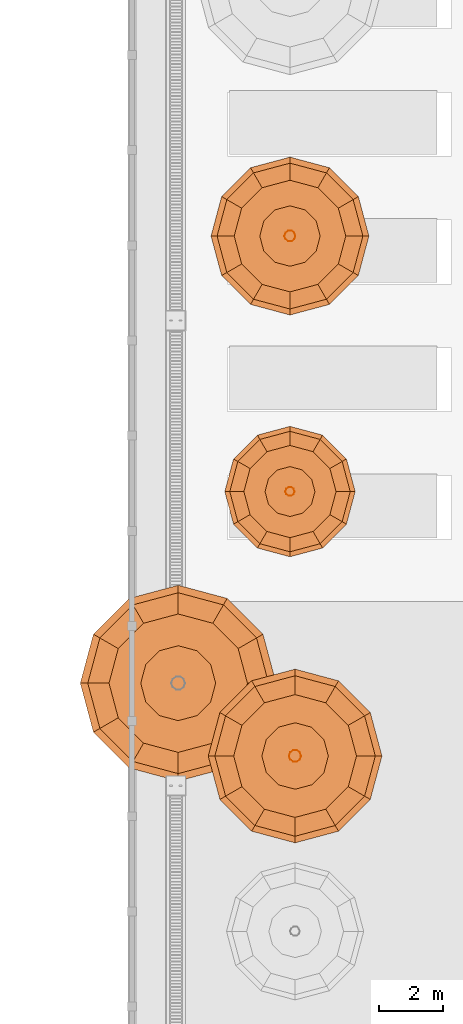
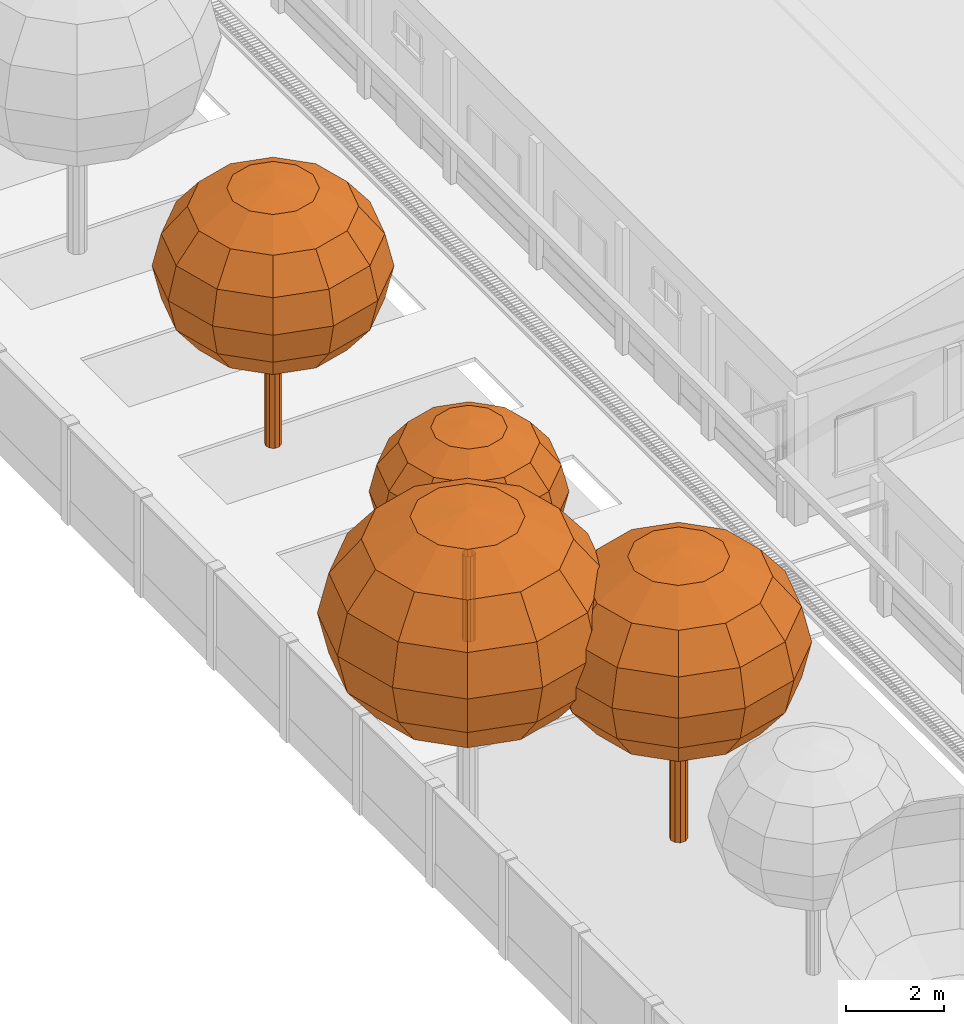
# One storey, part 151 of 166: 7 proxies.
"""IFC2X3 building model written with IfcOpenShell, lengths in metres."""

from ifc_helpers import new_model, si_unit, origin, origin_with_axes, place, context, subcontext, project, spatial, faceted_brep, element, save


model = new_model("IFC2X3")

# Units and contexts
model_context = context("Model", 3, precision=1e-05, world=origin_with_axes())
body_context = subcontext(model_context, "Body", "Model", "MODEL_VIEW")
ifc_project = project(units=[si_unit("LENGTHUNIT", "METRE"), si_unit("AREAUNIT", "SQUARE_METRE"), si_unit("VOLUMEUNIT", "CUBIC_METRE"), si_unit("PLANEANGLEUNIT", "RADIAN")], contexts=[model_context])

# Site, building, storey
site_placement = place(None, origin_with_axes())
site = spatial("IfcSite", under=ifc_project, at=site_placement, Name="Predio Los Mangos - Morales, San Martín", CompositionType="ELEMENT")
building_placement = place(site_placement, origin())
building = spatial("IfcBuilding", under=site, at=building_placement, Name="Hogar de Refugio Temporal", CompositionType="ELEMENT")
storey_placement = place(building_placement, origin())
storey = spatial("IfcBuildingStorey", under=building, at=storey_placement, Name="NIVEL 1 (NPT +0.00)", CompositionType="ELEMENT", Elevation=0.0)

# Proxies
proxy_1_placement = place(storey_placement, origin())
element("IfcBuildingElementProxy", 1, at=proxy_1_placement, inside=storey, Name="arbol_tronco", ObjectType="Árbol", context=body_context, shape_type="Brep", body=[
    faceted_brep([(6.3492, 43.72, 0.0), (6.3131, 43.8312, 0.0), (6.3131, 43.8312, 2.8377), (6.2185, 43.8999, 0.0), (6.2185, 43.8999, 2.8377), (6.1015, 43.8999, 0.0), (6.1015, 43.8999, 2.8377), (6.0069, 43.8312, 0.0), (6.0069, 43.8312, 2.8377), (5.9708, 43.72, 0.0), (5.9708, 43.72, 2.8377), (6.0069, 43.6088, 0.0), (6.0069, 43.6088, 2.8377), (6.1015, 43.5401, 0.0), (6.1015, 43.5401, 2.8377), (6.2185, 43.5401, 0.0), (6.2185, 43.5401, 2.8377), (6.3131, 43.6088, 0.0), (6.3131, 43.6088, 2.8377), (6.3492, 43.72, 2.8377)], [[[0, 1, 2]], [[1, 3, 4]], [[3, 5, 6]], [[5, 7, 8]], [[7, 9, 10]], [[9, 11, 12]], [[11, 13, 14]], [[13, 15, 16]], [[15, 17, 18]], [[17, 0, 19]], [[0, 2, 19]], [[1, 4, 2]], [[3, 6, 4]], [[5, 8, 6]], [[7, 10, 8]], [[9, 12, 10]], [[11, 14, 12]], [[13, 16, 14]], [[15, 18, 16]], [[17, 19, 18]]]),
])
proxy_2_placement = place(storey_placement, origin())
element("IfcBuildingElementProxy", 2, at=proxy_2_placement, inside=storey, Name="arbol_copa", ObjectType="Árbol", context=body_context, shape_type="Brep", body=[
    faceted_brep([(6.16, 43.72, 7.1889), (6.16, 43.72, 7.1889), (7.0613, 44.2404, 7.0129), (7.2007, 43.72, 7.0129), (6.16, 43.72, 7.1889), (6.6804, 44.6213, 7.0129), (6.16, 43.72, 7.1889), (6.16, 44.7607, 7.0129), (6.16, 43.72, 7.1889), (5.6396, 44.6213, 7.0129), (6.16, 43.72, 7.1889), (5.2587, 44.2404, 7.0129), (6.16, 43.72, 7.1889), (5.1193, 43.72, 7.0129), (6.16, 43.72, 7.1889), (5.2587, 43.1997, 7.0129), (6.16, 43.72, 7.1889), (5.6396, 42.8187, 7.0129), (6.16, 43.72, 7.1889), (6.16, 42.6793, 7.0129), (6.16, 43.72, 7.1889), (6.6804, 42.8187, 7.0129), (6.16, 43.72, 7.1889), (7.0613, 43.1997, 7.0129), (7.8253, 44.6815, 6.5119), (8.083, 43.72, 6.5119), (7.1215, 45.3853, 6.5119), (6.16, 45.643, 6.5119), (5.1985, 45.3853, 6.5119), (4.4947, 44.6815, 6.5119), (4.237, 43.72, 6.5119), (4.4947, 42.7585, 6.5119), (5.1985, 42.0547, 6.5119), (6.16, 41.797, 6.5119), (7.1215, 42.0547, 6.5119), (7.8253, 42.7585, 6.5119), (8.3359, 44.9762, 5.7619), (8.6725, 43.72, 5.7619), (7.4162, 45.8959, 5.7619), (6.16, 46.2325, 5.7619), (4.9038, 45.8959, 5.7619), (3.9841, 44.9762, 5.7619), (3.6475, 43.72, 5.7619), (3.9841, 42.4638, 5.7619), (4.9038, 41.5441, 5.7619), (6.16, 41.2075, 5.7619), (7.4162, 41.5441, 5.7619), (8.3359, 42.4638, 5.7619), (8.5151, 45.0797, 4.8773), (8.8795, 43.72, 4.8773), (7.5197, 46.0751, 4.8773), (6.16, 46.4395, 4.8773), (4.8003, 46.0751, 4.8773), (3.8049, 45.0797, 4.8773), (3.4405, 43.72, 4.8773), (3.8049, 42.3603, 4.8773), (4.8003, 41.3649, 4.8773), (6.16, 41.0005, 4.8773), (7.5197, 41.3649, 4.8773), (8.5151, 42.3603, 4.8773), (8.3359, 44.9762, 3.9927), (8.6725, 43.72, 3.9927), (7.4162, 45.8959, 3.9927), (6.16, 46.2325, 3.9927), (4.9038, 45.8959, 3.9927), (3.9841, 44.9762, 3.9927), (3.6475, 43.72, 3.9927), (3.9841, 42.4638, 3.9927), (4.9038, 41.5441, 3.9927), (6.16, 41.2075, 3.9927), (7.4162, 41.5441, 3.9927), (8.3359, 42.4638, 3.9927), (7.8253, 44.6815, 3.2428), (8.083, 43.72, 3.2428), (7.1215, 45.3853, 3.2428), (6.16, 45.643, 3.2428), (5.1985, 45.3853, 3.2428), (4.4947, 44.6815, 3.2428), (4.237, 43.72, 3.2428), (4.4947, 42.7585, 3.2428), (5.1985, 42.0547, 3.2428), (6.16, 41.797, 3.2428), (7.1215, 42.0547, 3.2428), (7.8253, 42.7585, 3.2428), (7.0613, 44.2404, 2.7417), (7.2007, 43.72, 2.7417), (6.6804, 44.6213, 2.7417), (6.16, 44.7607, 2.7417), (5.6396, 44.6213, 2.7417), (5.2587, 44.2404, 2.7417), (5.1193, 43.72, 2.7417), (5.2587, 43.1997, 2.7417), (5.6396, 42.8187, 2.7417), (6.16, 42.6793, 2.7417), (6.6804, 42.8187, 2.7417), (7.0613, 43.1997, 2.7417), (6.16, 43.72, 2.5658), (6.16, 43.72, 2.5658), (6.16, 43.72, 2.5658), (6.16, 43.72, 2.5658), (6.16, 43.72, 2.5658), (6.16, 43.72, 2.5658), (6.16, 43.72, 2.5658), (6.16, 43.72, 2.5658), (6.16, 43.72, 2.5658), (6.16, 43.72, 2.5658), (6.16, 43.72, 2.5658), (6.16, 43.72, 2.5658)], [[[0, 1, 2]], [[0, 2, 3]], [[1, 4, 5]], [[1, 5, 2]], [[4, 6, 7]], [[4, 7, 5]], [[6, 8, 9]], [[6, 9, 7]], [[8, 10, 11]], [[8, 11, 9]], [[10, 12, 13]], [[10, 13, 11]], [[12, 14, 15]], [[12, 15, 13]], [[14, 16, 17]], [[14, 17, 15]], [[16, 18, 19]], [[16, 19, 17]], [[18, 20, 21]], [[18, 21, 19]], [[20, 22, 23]], [[20, 23, 21]], [[22, 0, 3]], [[22, 3, 23]], [[3, 2, 24]], [[3, 24, 25]], [[2, 5, 26]], [[2, 26, 24]], [[5, 7, 27]], [[5, 27, 26]], [[7, 9, 28]], [[7, 28, 27]], [[9, 11, 29]], [[9, 29, 28]], [[11, 13, 30]], [[11, 30, 29]], [[13, 15, 31]], [[13, 31, 30]], [[15, 17, 32]], [[15, 32, 31]], [[17, 19, 33]], [[17, 33, 32]], [[19, 21, 34]], [[19, 34, 33]], [[21, 23, 35]], [[21, 35, 34]], [[23, 3, 25]], [[23, 25, 35]], [[25, 24, 36]], [[25, 36, 37]], [[24, 26, 38]], [[24, 38, 36]], [[26, 27, 39]], [[26, 39, 38]], [[27, 28, 40]], [[27, 40, 39]], [[28, 29, 41]], [[28, 41, 40]], [[29, 30, 42]], [[29, 42, 41]], [[30, 31, 43]], [[30, 43, 42]], [[31, 32, 44]], [[31, 44, 43]], [[32, 33, 45]], [[32, 45, 44]], [[33, 34, 46]], [[33, 46, 45]], [[34, 35, 47]], [[34, 47, 46]], [[35, 25, 37]], [[35, 37, 47]], [[37, 36, 48]], [[37, 48, 49]], [[36, 38, 50]], [[36, 50, 48]], [[38, 39, 51]], [[38, 51, 50]], [[39, 40, 52]], [[39, 52, 51]], [[40, 41, 53]], [[40, 53, 52]], [[41, 42, 54]], [[41, 54, 53]], [[42, 43, 55]], [[42, 55, 54]], [[43, 44, 56]], [[43, 56, 55]], [[44, 45, 57]], [[44, 57, 56]], [[45, 46, 58]], [[45, 58, 57]], [[46, 47, 59]], [[46, 59, 58]], [[47, 37, 49]], [[47, 49, 59]], [[49, 48, 60]], [[49, 60, 61]], [[48, 50, 62]], [[48, 62, 60]], [[50, 51, 63]], [[50, 63, 62]], [[51, 52, 64]], [[51, 64, 63]], [[52, 53, 65]], [[52, 65, 64]], [[53, 54, 66]], [[53, 66, 65]], [[54, 55, 67]], [[54, 67, 66]], [[55, 56, 68]], [[55, 68, 67]], [[56, 57, 69]], [[56, 69, 68]], [[57, 58, 70]], [[57, 70, 69]], [[58, 59, 71]], [[58, 71, 70]], [[59, 49, 61]], [[59, 61, 71]], [[61, 60, 72]], [[61, 72, 73]], [[60, 62, 74]], [[60, 74, 72]], [[62, 63, 75]], [[62, 75, 74]], [[63, 64, 76]], [[63, 76, 75]], [[64, 65, 77]], [[64, 77, 76]], [[65, 66, 78]], [[65, 78, 77]], [[66, 67, 79]], [[66, 79, 78]], [[67, 68, 80]], [[67, 80, 79]], [[68, 69, 81]], [[68, 81, 80]], [[69, 70, 82]], [[69, 82, 81]], [[70, 71, 83]], [[70, 83, 82]], [[71, 61, 73]], [[71, 73, 83]], [[73, 72, 84]], [[73, 84, 85]], [[72, 74, 86]], [[72, 86, 84]], [[74, 75, 87]], [[74, 87, 86]], [[75, 76, 88]], [[75, 88, 87]], [[76, 77, 89]], [[76, 89, 88]], [[77, 78, 90]], [[77, 90, 89]], [[78, 79, 91]], [[78, 91, 90]], [[79, 80, 92]], [[79, 92, 91]], [[80, 81, 93]], [[80, 93, 92]], [[81, 82, 94]], [[81, 94, 93]], [[82, 83, 95]], [[82, 95, 94]], [[83, 73, 85]], [[83, 85, 95]], [[85, 84, 96]], [[85, 96, 97]], [[84, 86, 98]], [[84, 98, 96]], [[86, 87, 99]], [[86, 99, 98]], [[87, 88, 100]], [[87, 100, 99]], [[88, 89, 101]], [[88, 101, 100]], [[89, 90, 102]], [[89, 102, 101]], [[90, 91, 103]], [[90, 103, 102]], [[91, 92, 104]], [[91, 104, 103]], [[92, 93, 105]], [[92, 105, 104]], [[93, 94, 106]], [[93, 106, 105]], [[94, 95, 107]], [[94, 107, 106]], [[95, 85, 97]], [[95, 97, 107]]]),
])
proxy_3_placement = place(storey_placement, origin())
element("IfcBuildingElementProxy", 3, at=proxy_3_placement, inside=storey, Name="arbol_tronco", ObjectType="Árbol", context=body_context, shape_type="Brep", body=[
    faceted_brep([(6.142, 52.0, 0.0), (6.1149, 52.0835, 0.0), (6.1149, 52.0835, 2.1298), (6.0439, 52.135, 0.0), (6.0439, 52.135, 2.1298), (5.9561, 52.135, 0.0), (5.9561, 52.135, 2.1298), (5.8851, 52.0835, 0.0), (5.8851, 52.0835, 2.1298), (5.858, 52.0, 0.0), (5.858, 52.0, 2.1298), (5.8851, 51.9165, 0.0), (5.8851, 51.9165, 2.1298), (5.9561, 51.865, 0.0), (5.9561, 51.865, 2.1298), (6.0439, 51.865, 0.0), (6.0439, 51.865, 2.1298), (6.1149, 51.9165, 0.0), (6.1149, 51.9165, 2.1298), (6.142, 52.0, 2.1298)], [[[0, 1, 2]], [[1, 3, 4]], [[3, 5, 6]], [[5, 7, 8]], [[7, 9, 10]], [[9, 11, 12]], [[11, 13, 14]], [[13, 15, 16]], [[15, 17, 18]], [[17, 0, 19]], [[0, 2, 19]], [[1, 4, 2]], [[3, 6, 4]], [[5, 8, 6]], [[7, 10, 8]], [[9, 12, 10]], [[11, 14, 12]], [[13, 16, 14]], [[15, 18, 16]], [[17, 19, 18]]]),
])
proxy_4_placement = place(storey_placement, origin())
element("IfcBuildingElementProxy", 4, at=proxy_4_placement, inside=storey, Name="arbol_copa", ObjectType="Árbol", context=body_context, shape_type="Brep", body=[
    faceted_brep([(6.0, 52.0, 5.3955), (6.0, 52.0, 5.3955), (6.6764, 52.3905, 5.2635), (6.7811, 52.0, 5.2635), (6.0, 52.0, 5.3955), (6.3905, 52.6764, 5.2635), (6.0, 52.0, 5.3955), (6.0, 52.7811, 5.2635), (6.0, 52.0, 5.3955), (5.6095, 52.6764, 5.2635), (6.0, 52.0, 5.3955), (5.3236, 52.3905, 5.2635), (6.0, 52.0, 5.3955), (5.2189, 52.0, 5.2635), (6.0, 52.0, 5.3955), (5.3236, 51.6095, 5.2635), (6.0, 52.0, 5.3955), (5.6095, 51.3236, 5.2635), (6.0, 52.0, 5.3955), (6.0, 51.2189, 5.2635), (6.0, 52.0, 5.3955), (6.3905, 51.3236, 5.2635), (6.0, 52.0, 5.3955), (6.6764, 51.6095, 5.2635), (7.2499, 52.7216, 4.8874), (7.4433, 52.0, 4.8874), (6.7216, 53.2499, 4.8874), (6.0, 53.4433, 4.8874), (5.2784, 53.2499, 4.8874), (4.7501, 52.7216, 4.8874), (4.5567, 52.0, 4.8874), (4.7501, 51.2784, 4.8874), (5.2784, 50.7501, 4.8874), (6.0, 50.5567, 4.8874), (6.7216, 50.7501, 4.8874), (7.2499, 51.2784, 4.8874), (7.6331, 52.9429, 4.3245), (7.8857, 52.0, 4.3245), (6.9429, 53.6331, 4.3245), (6.0, 53.8857, 4.3245), (5.0571, 53.6331, 4.3245), (4.3669, 52.9429, 4.3245), (4.1143, 52.0, 4.3245), (4.3669, 51.0571, 4.3245), (5.0571, 50.3669, 4.3245), (6.0, 50.1143, 4.3245), (6.9429, 50.3669, 4.3245), (7.6331, 51.0571, 4.3245), (7.7676, 53.0205, 3.6606), (8.0411, 52.0, 3.6606), (7.0205, 53.7676, 3.6606), (6.0, 54.0411, 3.6606), (4.9795, 53.7676, 3.6606), (4.2324, 53.0205, 3.6606), (3.9589, 52.0, 3.6606), (4.2324, 50.9795, 3.6606), (4.9795, 50.2324, 3.6606), (6.0, 49.9589, 3.6606), (7.0205, 50.2324, 3.6606), (7.7676, 50.9795, 3.6606), (7.6331, 52.9429, 2.9967), (7.8857, 52.0, 2.9967), (6.9429, 53.6331, 2.9967), (6.0, 53.8857, 2.9967), (5.0571, 53.6331, 2.9967), (4.3669, 52.9429, 2.9967), (4.1143, 52.0, 2.9967), (4.3669, 51.0571, 2.9967), (5.0571, 50.3669, 2.9967), (6.0, 50.1143, 2.9967), (6.9429, 50.3669, 2.9967), (7.6331, 51.0571, 2.9967), (7.2499, 52.7216, 2.4338), (7.4433, 52.0, 2.4338), (6.7216, 53.2499, 2.4338), (6.0, 53.4433, 2.4338), (5.2784, 53.2499, 2.4338), (4.7501, 52.7216, 2.4338), (4.5567, 52.0, 2.4338), (4.7501, 51.2784, 2.4338), (5.2784, 50.7501, 2.4338), (6.0, 50.5567, 2.4338), (6.7216, 50.7501, 2.4338), (7.2499, 51.2784, 2.4338), (6.6764, 52.3905, 2.0578), (6.7811, 52.0, 2.0578), (6.3905, 52.6764, 2.0578), (6.0, 52.7811, 2.0578), (5.6095, 52.6764, 2.0578), (5.3236, 52.3905, 2.0578), (5.2189, 52.0, 2.0578), (5.3236, 51.6095, 2.0578), (5.6095, 51.3236, 2.0578), (6.0, 51.2189, 2.0578), (6.3905, 51.3236, 2.0578), (6.6764, 51.6095, 2.0578), (6.0, 52.0, 1.9257), (6.0, 52.0, 1.9257), (6.0, 52.0, 1.9257), (6.0, 52.0, 1.9257), (6.0, 52.0, 1.9257), (6.0, 52.0, 1.9257), (6.0, 52.0, 1.9257), (6.0, 52.0, 1.9257), (6.0, 52.0, 1.9257), (6.0, 52.0, 1.9257), (6.0, 52.0, 1.9257), (6.0, 52.0, 1.9257)], [[[0, 1, 2]], [[0, 2, 3]], [[1, 4, 5]], [[1, 5, 2]], [[4, 6, 7]], [[4, 7, 5]], [[6, 8, 9]], [[6, 9, 7]], [[8, 10, 11]], [[8, 11, 9]], [[10, 12, 13]], [[10, 13, 11]], [[12, 14, 15]], [[12, 15, 13]], [[14, 16, 17]], [[14, 17, 15]], [[16, 18, 19]], [[16, 19, 17]], [[18, 20, 21]], [[18, 21, 19]], [[20, 22, 23]], [[20, 23, 21]], [[22, 0, 3]], [[22, 3, 23]], [[3, 2, 24]], [[3, 24, 25]], [[2, 5, 26]], [[2, 26, 24]], [[5, 7, 27]], [[5, 27, 26]], [[7, 9, 28]], [[7, 28, 27]], [[9, 11, 29]], [[9, 29, 28]], [[11, 13, 30]], [[11, 30, 29]], [[13, 15, 31]], [[13, 31, 30]], [[15, 17, 32]], [[15, 32, 31]], [[17, 19, 33]], [[17, 33, 32]], [[19, 21, 34]], [[19, 34, 33]], [[21, 23, 35]], [[21, 35, 34]], [[23, 3, 25]], [[23, 25, 35]], [[25, 24, 36]], [[25, 36, 37]], [[24, 26, 38]], [[24, 38, 36]], [[26, 27, 39]], [[26, 39, 38]], [[27, 28, 40]], [[27, 40, 39]], [[28, 29, 41]], [[28, 41, 40]], [[29, 30, 42]], [[29, 42, 41]], [[30, 31, 43]], [[30, 43, 42]], [[31, 32, 44]], [[31, 44, 43]], [[32, 33, 45]], [[32, 45, 44]], [[33, 34, 46]], [[33, 46, 45]], [[34, 35, 47]], [[34, 47, 46]], [[35, 25, 37]], [[35, 37, 47]], [[37, 36, 48]], [[37, 48, 49]], [[36, 38, 50]], [[36, 50, 48]], [[38, 39, 51]], [[38, 51, 50]], [[39, 40, 52]], [[39, 52, 51]], [[40, 41, 53]], [[40, 53, 52]], [[41, 42, 54]], [[41, 54, 53]], [[42, 43, 55]], [[42, 55, 54]], [[43, 44, 56]], [[43, 56, 55]], [[44, 45, 57]], [[44, 57, 56]], [[45, 46, 58]], [[45, 58, 57]], [[46, 47, 59]], [[46, 59, 58]], [[47, 37, 49]], [[47, 49, 59]], [[49, 48, 60]], [[49, 60, 61]], [[48, 50, 62]], [[48, 62, 60]], [[50, 51, 63]], [[50, 63, 62]], [[51, 52, 64]], [[51, 64, 63]], [[52, 53, 65]], [[52, 65, 64]], [[53, 54, 66]], [[53, 66, 65]], [[54, 55, 67]], [[54, 67, 66]], [[55, 56, 68]], [[55, 68, 67]], [[56, 57, 69]], [[56, 69, 68]], [[57, 58, 70]], [[57, 70, 69]], [[58, 59, 71]], [[58, 71, 70]], [[59, 49, 61]], [[59, 61, 71]], [[61, 60, 72]], [[61, 72, 73]], [[60, 62, 74]], [[60, 74, 72]], [[62, 63, 75]], [[62, 75, 74]], [[63, 64, 76]], [[63, 76, 75]], [[64, 65, 77]], [[64, 77, 76]], [[65, 66, 78]], [[65, 78, 77]], [[66, 67, 79]], [[66, 79, 78]], [[67, 68, 80]], [[67, 80, 79]], [[68, 69, 81]], [[68, 81, 80]], [[69, 70, 82]], [[69, 82, 81]], [[70, 71, 83]], [[70, 83, 82]], [[71, 61, 73]], [[71, 73, 83]], [[73, 72, 84]], [[73, 84, 85]], [[72, 74, 86]], [[72, 86, 84]], [[74, 75, 87]], [[74, 87, 86]], [[75, 76, 88]], [[75, 88, 87]], [[76, 77, 89]], [[76, 89, 88]], [[77, 78, 90]], [[77, 90, 89]], [[78, 79, 91]], [[78, 91, 90]], [[79, 80, 92]], [[79, 92, 91]], [[80, 81, 93]], [[80, 93, 92]], [[81, 82, 94]], [[81, 94, 93]], [[82, 83, 95]], [[82, 95, 94]], [[83, 73, 85]], [[83, 85, 95]], [[85, 84, 96]], [[85, 96, 97]], [[84, 86, 98]], [[84, 98, 96]], [[86, 87, 99]], [[86, 99, 98]], [[87, 88, 100]], [[87, 100, 99]], [[88, 89, 101]], [[88, 101, 100]], [[89, 90, 102]], [[89, 102, 101]], [[90, 91, 103]], [[90, 103, 102]], [[91, 92, 104]], [[91, 104, 103]], [[92, 93, 105]], [[92, 105, 104]], [[93, 94, 106]], [[93, 106, 105]], [[94, 95, 107]], [[94, 107, 106]], [[95, 85, 97]], [[95, 97, 107]]]),
])
proxy_5_placement = place(storey_placement, origin())
element("IfcBuildingElementProxy", 5, at=proxy_5_placement, inside=storey, Name="arbol_tronco", ObjectType="Árbol", context=body_context, shape_type="Brep", body=[
    faceted_brep([(6.1719, 60.0, 0.0), (6.1391, 60.1011, 0.0), (6.1391, 60.1011, 2.5788), (6.0531, 60.1635, 0.0), (6.0531, 60.1635, 2.5788), (5.9469, 60.1635, 0.0), (5.9469, 60.1635, 2.5788), (5.8609, 60.1011, 0.0), (5.8609, 60.1011, 2.5788), (5.8281, 60.0, 0.0), (5.8281, 60.0, 2.5788), (5.8609, 59.8989, 0.0), (5.8609, 59.8989, 2.5788), (5.9469, 59.8365, 0.0), (5.9469, 59.8365, 2.5788), (6.0531, 59.8365, 0.0), (6.0531, 59.8365, 2.5788), (6.1391, 59.8989, 0.0), (6.1391, 59.8989, 2.5788), (6.1719, 60.0, 2.5788)], [[[0, 1, 2]], [[1, 3, 4]], [[3, 5, 6]], [[5, 7, 8]], [[7, 9, 10]], [[9, 11, 12]], [[11, 13, 14]], [[13, 15, 16]], [[15, 17, 18]], [[17, 0, 19]], [[0, 2, 19]], [[1, 4, 2]], [[3, 6, 4]], [[5, 8, 6]], [[7, 10, 8]], [[9, 12, 10]], [[11, 14, 12]], [[13, 16, 14]], [[15, 18, 16]], [[17, 19, 18]]]),
])
proxy_6_placement = place(storey_placement, origin())
element("IfcBuildingElementProxy", 6, at=proxy_6_placement, inside=storey, Name="arbol_copa", ObjectType="Árbol", context=body_context, shape_type="Brep", body=[
    faceted_brep([(6.0, 60.0, 6.5329), (6.0, 60.0, 6.5329), (6.819, 60.4729, 6.373), (6.9457, 60.0, 6.373), (6.0, 60.0, 6.5329), (6.4729, 60.819, 6.373), (6.0, 60.0, 6.5329), (6.0, 60.9457, 6.373), (6.0, 60.0, 6.5329), (5.5271, 60.819, 6.373), (6.0, 60.0, 6.5329), (5.181, 60.4729, 6.373), (6.0, 60.0, 6.5329), (5.0543, 60.0, 6.373), (6.0, 60.0, 6.5329), (5.181, 59.5271, 6.373), (6.0, 60.0, 6.5329), (5.5271, 59.181, 6.373), (6.0, 60.0, 6.5329), (6.0, 59.0543, 6.373), (6.0, 60.0, 6.5329), (6.4729, 59.181, 6.373), (6.0, 60.0, 6.5329), (6.819, 59.5271, 6.373), (7.5134, 60.8738, 5.9177), (7.7475, 60.0, 5.9177), (6.8738, 61.5134, 5.9177), (6.0, 61.7475, 5.9177), (5.1262, 61.5134, 5.9177), (4.4866, 60.8738, 5.9177), (4.2525, 60.0, 5.9177), (4.4866, 59.1262, 5.9177), (5.1262, 58.4866, 5.9177), (6.0, 58.2525, 5.9177), (6.8738, 58.4866, 5.9177), (7.5134, 59.1262, 5.9177), (7.9773, 61.1416, 5.2362), (8.2832, 60.0, 5.2362), (7.1416, 61.9773, 5.2362), (6.0, 62.2832, 5.2362), (4.8584, 61.9773, 5.2362), (4.0227, 61.1416, 5.2362), (3.7168, 60.0, 5.2362), (4.0227, 58.8584, 5.2362), (4.8584, 58.0227, 5.2362), (6.0, 57.7168, 5.2362), (7.1416, 58.0227, 5.2362), (7.9773, 58.8584, 5.2362), (8.1402, 61.2357, 4.4323), (8.4713, 60.0, 4.4323), (7.2357, 62.1402, 4.4323), (6.0, 62.4713, 4.4323), (4.7643, 62.1402, 4.4323), (3.8598, 61.2357, 4.4323), (3.5287, 60.0, 4.4323), (3.8598, 58.7643, 4.4323), (4.7643, 57.8598, 4.4323), (6.0, 57.5287, 4.4323), (7.2357, 57.8598, 4.4323), (8.1402, 58.7643, 4.4323), (7.9773, 61.1416, 3.6284), (8.2832, 60.0, 3.6284), (7.1416, 61.9773, 3.6284), (6.0, 62.2832, 3.6284), (4.8584, 61.9773, 3.6284), (4.0227, 61.1416, 3.6284), (3.7168, 60.0, 3.6284), (4.0227, 58.8584, 3.6284), (4.8584, 58.0227, 3.6284), (6.0, 57.7168, 3.6284), (7.1416, 58.0227, 3.6284), (7.9773, 58.8584, 3.6284), (7.5134, 60.8738, 2.9469), (7.7475, 60.0, 2.9469), (6.8738, 61.5134, 2.9469), (6.0, 61.7475, 2.9469), (5.1262, 61.5134, 2.9469), (4.4866, 60.8738, 2.9469), (4.2525, 60.0, 2.9469), (4.4866, 59.1262, 2.9469), (5.1262, 58.4866, 2.9469), (6.0, 58.2525, 2.9469), (6.8738, 58.4866, 2.9469), (7.5134, 59.1262, 2.9469), (6.819, 60.4729, 2.4916), (6.9457, 60.0, 2.4916), (6.4729, 60.819, 2.4916), (6.0, 60.9457, 2.4916), (5.5271, 60.819, 2.4916), (5.181, 60.4729, 2.4916), (5.0543, 60.0, 2.4916), (5.181, 59.5271, 2.4916), (5.5271, 59.181, 2.4916), (6.0, 59.0543, 2.4916), (6.4729, 59.181, 2.4916), (6.819, 59.5271, 2.4916), (6.0, 60.0, 2.3317), (6.0, 60.0, 2.3317), (6.0, 60.0, 2.3317), (6.0, 60.0, 2.3317), (6.0, 60.0, 2.3317), (6.0, 60.0, 2.3317), (6.0, 60.0, 2.3317), (6.0, 60.0, 2.3317), (6.0, 60.0, 2.3317), (6.0, 60.0, 2.3317), (6.0, 60.0, 2.3317), (6.0, 60.0, 2.3317)], [[[0, 1, 2]], [[0, 2, 3]], [[1, 4, 5]], [[1, 5, 2]], [[4, 6, 7]], [[4, 7, 5]], [[6, 8, 9]], [[6, 9, 7]], [[8, 10, 11]], [[8, 11, 9]], [[10, 12, 13]], [[10, 13, 11]], [[12, 14, 15]], [[12, 15, 13]], [[14, 16, 17]], [[14, 17, 15]], [[16, 18, 19]], [[16, 19, 17]], [[18, 20, 21]], [[18, 21, 19]], [[20, 22, 23]], [[20, 23, 21]], [[22, 0, 3]], [[22, 3, 23]], [[3, 2, 24]], [[3, 24, 25]], [[2, 5, 26]], [[2, 26, 24]], [[5, 7, 27]], [[5, 27, 26]], [[7, 9, 28]], [[7, 28, 27]], [[9, 11, 29]], [[9, 29, 28]], [[11, 13, 30]], [[11, 30, 29]], [[13, 15, 31]], [[13, 31, 30]], [[15, 17, 32]], [[15, 32, 31]], [[17, 19, 33]], [[17, 33, 32]], [[19, 21, 34]], [[19, 34, 33]], [[21, 23, 35]], [[21, 35, 34]], [[23, 3, 25]], [[23, 25, 35]], [[25, 24, 36]], [[25, 36, 37]], [[24, 26, 38]], [[24, 38, 36]], [[26, 27, 39]], [[26, 39, 38]], [[27, 28, 40]], [[27, 40, 39]], [[28, 29, 41]], [[28, 41, 40]], [[29, 30, 42]], [[29, 42, 41]], [[30, 31, 43]], [[30, 43, 42]], [[31, 32, 44]], [[31, 44, 43]], [[32, 33, 45]], [[32, 45, 44]], [[33, 34, 46]], [[33, 46, 45]], [[34, 35, 47]], [[34, 47, 46]], [[35, 25, 37]], [[35, 37, 47]], [[37, 36, 48]], [[37, 48, 49]], [[36, 38, 50]], [[36, 50, 48]], [[38, 39, 51]], [[38, 51, 50]], [[39, 40, 52]], [[39, 52, 51]], [[40, 41, 53]], [[40, 53, 52]], [[41, 42, 54]], [[41, 54, 53]], [[42, 43, 55]], [[42, 55, 54]], [[43, 44, 56]], [[43, 56, 55]], [[44, 45, 57]], [[44, 57, 56]], [[45, 46, 58]], [[45, 58, 57]], [[46, 47, 59]], [[46, 59, 58]], [[47, 37, 49]], [[47, 49, 59]], [[49, 48, 60]], [[49, 60, 61]], [[48, 50, 62]], [[48, 62, 60]], [[50, 51, 63]], [[50, 63, 62]], [[51, 52, 64]], [[51, 64, 63]], [[52, 53, 65]], [[52, 65, 64]], [[53, 54, 66]], [[53, 66, 65]], [[54, 55, 67]], [[54, 67, 66]], [[55, 56, 68]], [[55, 68, 67]], [[56, 57, 69]], [[56, 69, 68]], [[57, 58, 70]], [[57, 70, 69]], [[58, 59, 71]], [[58, 71, 70]], [[59, 49, 61]], [[59, 61, 71]], [[61, 60, 72]], [[61, 72, 73]], [[60, 62, 74]], [[60, 74, 72]], [[62, 63, 75]], [[62, 75, 74]], [[63, 64, 76]], [[63, 76, 75]], [[64, 65, 77]], [[64, 77, 76]], [[65, 66, 78]], [[65, 78, 77]], [[66, 67, 79]], [[66, 79, 78]], [[67, 68, 80]], [[67, 80, 79]], [[68, 69, 81]], [[68, 81, 80]], [[69, 70, 82]], [[69, 82, 81]], [[70, 71, 83]], [[70, 83, 82]], [[71, 61, 73]], [[71, 73, 83]], [[73, 72, 84]], [[73, 84, 85]], [[72, 74, 86]], [[72, 86, 84]], [[74, 75, 87]], [[74, 87, 86]], [[75, 76, 88]], [[75, 88, 87]], [[76, 77, 89]], [[76, 89, 88]], [[77, 78, 90]], [[77, 90, 89]], [[78, 79, 91]], [[78, 91, 90]], [[79, 80, 92]], [[79, 92, 91]], [[80, 81, 93]], [[80, 93, 92]], [[81, 82, 94]], [[81, 94, 93]], [[82, 83, 95]], [[82, 95, 94]], [[83, 73, 85]], [[83, 85, 95]], [[85, 84, 96]], [[85, 96, 97]], [[84, 86, 98]], [[84, 98, 96]], [[86, 87, 99]], [[86, 99, 98]], [[87, 88, 100]], [[87, 100, 99]], [[88, 89, 101]], [[88, 101, 100]], [[89, 90, 102]], [[89, 102, 101]], [[90, 91, 103]], [[90, 103, 102]], [[91, 92, 104]], [[91, 104, 103]], [[92, 93, 105]], [[92, 105, 104]], [[93, 94, 106]], [[93, 106, 105]], [[94, 95, 107]], [[94, 107, 106]], [[95, 85, 97]], [[95, 97, 107]]]),
])
proxy_7_placement = place(storey_placement, origin())
element("IfcBuildingElementProxy", 7, at=proxy_7_placement, inside=storey, Name="arbol_copa", ObjectType="Árbol", context=body_context, shape_type="Brep", body=[
    faceted_brep([(2.5, 46.0, 8.102), (2.5, 46.0, 8.102), (3.5158, 46.5864, 7.9037), (3.6729, 46.0, 7.9037), (2.5, 46.0, 8.102), (3.0864, 47.0158, 7.9037), (2.5, 46.0, 8.102), (2.5, 47.1729, 7.9037), (2.5, 46.0, 8.102), (1.9136, 47.0158, 7.9037), (2.5, 46.0, 8.102), (1.4842, 46.5864, 7.9037), (2.5, 46.0, 8.102), (1.3271, 46.0, 7.9037), (2.5, 46.0, 8.102), (1.4842, 45.4136, 7.9037), (2.5, 46.0, 8.102), (1.9136, 44.9842, 7.9037), (2.5, 46.0, 8.102), (2.5, 44.8271, 7.9037), (2.5, 46.0, 8.102), (3.0864, 44.9842, 7.9037), (2.5, 46.0, 8.102), (3.5158, 45.4136, 7.9037), (4.3769, 47.0836, 7.339), (4.6672, 46.0, 7.339), (3.5836, 47.8769, 7.339), (2.5, 48.1672, 7.339), (1.4164, 47.8769, 7.339), (0.6231, 47.0836, 7.339), (0.3328, 46.0, 7.339), (0.6231, 44.9164, 7.339), (1.4164, 44.1231, 7.339), (2.5, 43.8328, 7.339), (3.5836, 44.1231, 7.339), (4.3769, 44.9164, 7.339), (4.9522, 47.4158, 6.4938), (5.3316, 46.0, 6.4938), (3.9158, 48.4522, 6.4938), (2.5, 48.8316, 6.4938), (1.0842, 48.4522, 6.4938), (0.0478, 47.4158, 6.4938), (-0.3316, 46.0, 6.4938), (0.0478, 44.5842, 6.4938), (1.0842, 43.5478, 6.4938), (2.5, 43.1684, 6.4938), (3.9158, 43.5478, 6.4938), (4.9522, 44.5842, 6.4938), (5.1543, 47.5325, 5.4968), (5.5649, 46.0, 5.4968), (4.0325, 48.6543, 5.4968), (2.5, 49.0649, 5.4968), (0.9675, 48.6543, 5.4968), (-0.1543, 47.5325, 5.4968), (-0.5649, 46.0, 5.4968), (-0.1543, 44.4675, 5.4968), (0.9675, 43.3457, 5.4968), (2.5, 42.9351, 5.4968), (4.0325, 43.3457, 5.4968), (5.1543, 44.4675, 5.4968), (4.9522, 47.4158, 4.4999), (5.3316, 46.0, 4.4999), (3.9158, 48.4522, 4.4999), (2.5, 48.8316, 4.4999), (1.0842, 48.4522, 4.4999), (0.0478, 47.4158, 4.4999), (-0.3316, 46.0, 4.4999), (0.0478, 44.5842, 4.4999), (1.0842, 43.5478, 4.4999), (2.5, 43.1684, 4.4999), (3.9158, 43.5478, 4.4999), (4.9522, 44.5842, 4.4999), (4.3769, 47.0836, 3.6547), (4.6672, 46.0, 3.6547), (3.5836, 47.8769, 3.6547), (2.5, 48.1672, 3.6547), (1.4164, 47.8769, 3.6547), (0.6231, 47.0836, 3.6547), (0.3328, 46.0, 3.6547), (0.6231, 44.9164, 3.6547), (1.4164, 44.1231, 3.6547), (2.5, 43.8328, 3.6547), (3.5836, 44.1231, 3.6547), (4.3769, 44.9164, 3.6547), (3.5158, 46.5864, 3.09), (3.6729, 46.0, 3.09), (3.0864, 47.0158, 3.09), (2.5, 47.1729, 3.09), (1.9136, 47.0158, 3.09), (1.4842, 46.5864, 3.09), (1.3271, 46.0, 3.09), (1.4842, 45.4136, 3.09), (1.9136, 44.9842, 3.09), (2.5, 44.8271, 3.09), (3.0864, 44.9842, 3.09), (3.5158, 45.4136, 3.09), (2.5, 46.0, 2.8917), (2.5, 46.0, 2.8917), (2.5, 46.0, 2.8917), (2.5, 46.0, 2.8917), (2.5, 46.0, 2.8917), (2.5, 46.0, 2.8917), (2.5, 46.0, 2.8917), (2.5, 46.0, 2.8917), (2.5, 46.0, 2.8917), (2.5, 46.0, 2.8917), (2.5, 46.0, 2.8917), (2.5, 46.0, 2.8917)], [[[0, 1, 2]], [[0, 2, 3]], [[1, 4, 5]], [[1, 5, 2]], [[4, 6, 7]], [[4, 7, 5]], [[6, 8, 9]], [[6, 9, 7]], [[8, 10, 11]], [[8, 11, 9]], [[10, 12, 13]], [[10, 13, 11]], [[12, 14, 15]], [[12, 15, 13]], [[14, 16, 17]], [[14, 17, 15]], [[16, 18, 19]], [[16, 19, 17]], [[18, 20, 21]], [[18, 21, 19]], [[20, 22, 23]], [[20, 23, 21]], [[22, 0, 3]], [[22, 3, 23]], [[3, 2, 24]], [[3, 24, 25]], [[2, 5, 26]], [[2, 26, 24]], [[5, 7, 27]], [[5, 27, 26]], [[7, 9, 28]], [[7, 28, 27]], [[9, 11, 29]], [[9, 29, 28]], [[11, 13, 30]], [[11, 30, 29]], [[13, 15, 31]], [[13, 31, 30]], [[15, 17, 32]], [[15, 32, 31]], [[17, 19, 33]], [[17, 33, 32]], [[19, 21, 34]], [[19, 34, 33]], [[21, 23, 35]], [[21, 35, 34]], [[23, 3, 25]], [[23, 25, 35]], [[25, 24, 36]], [[25, 36, 37]], [[24, 26, 38]], [[24, 38, 36]], [[26, 27, 39]], [[26, 39, 38]], [[27, 28, 40]], [[27, 40, 39]], [[28, 29, 41]], [[28, 41, 40]], [[29, 30, 42]], [[29, 42, 41]], [[30, 31, 43]], [[30, 43, 42]], [[31, 32, 44]], [[31, 44, 43]], [[32, 33, 45]], [[32, 45, 44]], [[33, 34, 46]], [[33, 46, 45]], [[34, 35, 47]], [[34, 47, 46]], [[35, 25, 37]], [[35, 37, 47]], [[37, 36, 48]], [[37, 48, 49]], [[36, 38, 50]], [[36, 50, 48]], [[38, 39, 51]], [[38, 51, 50]], [[39, 40, 52]], [[39, 52, 51]], [[40, 41, 53]], [[40, 53, 52]], [[41, 42, 54]], [[41, 54, 53]], [[42, 43, 55]], [[42, 55, 54]], [[43, 44, 56]], [[43, 56, 55]], [[44, 45, 57]], [[44, 57, 56]], [[45, 46, 58]], [[45, 58, 57]], [[46, 47, 59]], [[46, 59, 58]], [[47, 37, 49]], [[47, 49, 59]], [[49, 48, 60]], [[49, 60, 61]], [[48, 50, 62]], [[48, 62, 60]], [[50, 51, 63]], [[50, 63, 62]], [[51, 52, 64]], [[51, 64, 63]], [[52, 53, 65]], [[52, 65, 64]], [[53, 54, 66]], [[53, 66, 65]], [[54, 55, 67]], [[54, 67, 66]], [[55, 56, 68]], [[55, 68, 67]], [[56, 57, 69]], [[56, 69, 68]], [[57, 58, 70]], [[57, 70, 69]], [[58, 59, 71]], [[58, 71, 70]], [[59, 49, 61]], [[59, 61, 71]], [[61, 60, 72]], [[61, 72, 73]], [[60, 62, 74]], [[60, 74, 72]], [[62, 63, 75]], [[62, 75, 74]], [[63, 64, 76]], [[63, 76, 75]], [[64, 65, 77]], [[64, 77, 76]], [[65, 66, 78]], [[65, 78, 77]], [[66, 67, 79]], [[66, 79, 78]], [[67, 68, 80]], [[67, 80, 79]], [[68, 69, 81]], [[68, 81, 80]], [[69, 70, 82]], [[69, 82, 81]], [[70, 71, 83]], [[70, 83, 82]], [[71, 61, 73]], [[71, 73, 83]], [[73, 72, 84]], [[73, 84, 85]], [[72, 74, 86]], [[72, 86, 84]], [[74, 75, 87]], [[74, 87, 86]], [[75, 76, 88]], [[75, 88, 87]], [[76, 77, 89]], [[76, 89, 88]], [[77, 78, 90]], [[77, 90, 89]], [[78, 79, 91]], [[78, 91, 90]], [[79, 80, 92]], [[79, 92, 91]], [[80, 81, 93]], [[80, 93, 92]], [[81, 82, 94]], [[81, 94, 93]], [[82, 83, 95]], [[82, 95, 94]], [[83, 73, 85]], [[83, 85, 95]], [[85, 84, 96]], [[85, 96, 97]], [[84, 86, 98]], [[84, 98, 96]], [[86, 87, 99]], [[86, 99, 98]], [[87, 88, 100]], [[87, 100, 99]], [[88, 89, 101]], [[88, 101, 100]], [[89, 90, 102]], [[89, 102, 101]], [[90, 91, 103]], [[90, 103, 102]], [[91, 92, 104]], [[91, 104, 103]], [[92, 93, 105]], [[92, 105, 104]], [[93, 94, 106]], [[93, 106, 105]], [[94, 95, 107]], [[94, 107, 106]], [[95, 85, 97]], [[95, 97, 107]]]),
])

save(model, "model.ifc")
